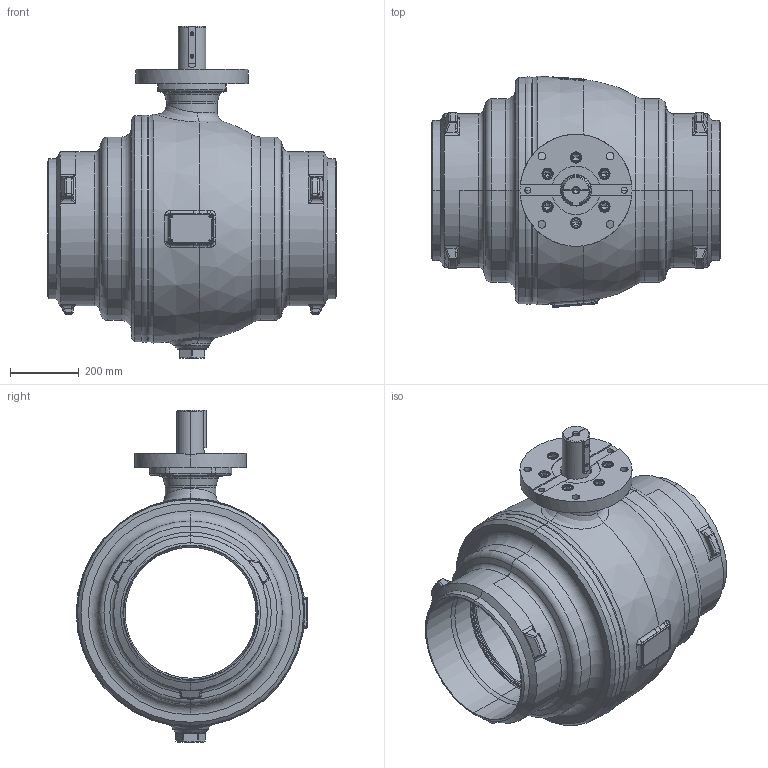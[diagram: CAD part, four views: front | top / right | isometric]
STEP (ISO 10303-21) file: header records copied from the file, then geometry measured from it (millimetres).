
FILE_DESCRIPTION((''),'2;1');
FILE_NAME('KHSVI_400_VVS_FR_WE','2026-01-27T14:12:57',('schwaba'),('KLINGER'),'CREO PARAMETRIC BY PTC INC, 2023014','CREO PARAMETRIC BY PTC INC, 2023014','');
FILE_SCHEMA(('CONFIG_CONTROL_DESIGN'));
Products named in the file (1): KHSVI_400_VVS_FR_WE
Bounding box: 838 x 671.57 x 963 mm (x, y, z)
Volume: 69736100.6 mm3; surface area: 6133486 mm2
Topology: 1 solids, 10 shells, 1459 faces, 3633 edges, 2237 vertices
Faces by surface type: plane 657, cylinder 297, cone 178, torus 168, bspline 118, sphere 41
Entity records: 100505 total; most frequent: CARTESIAN_POINT 67409, ORIENTED_EDGE 7194, DIRECTION 6565, EDGE_CURVE 3597, AXIS2_PLACEMENT_3D 2707, VERTEX_POINT 2237, EDGE_LOOP 1590, FACE_OUTER_BOUND 1459
